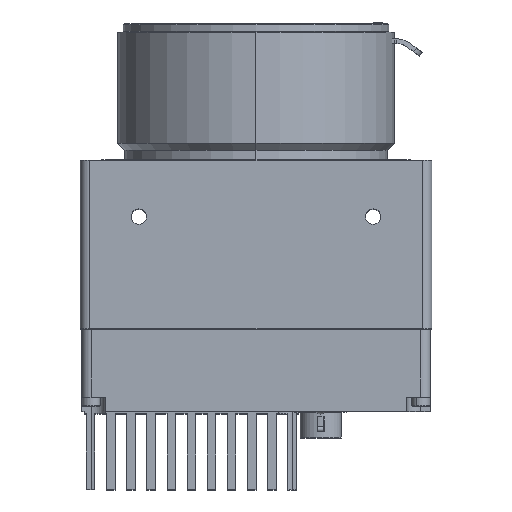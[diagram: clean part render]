
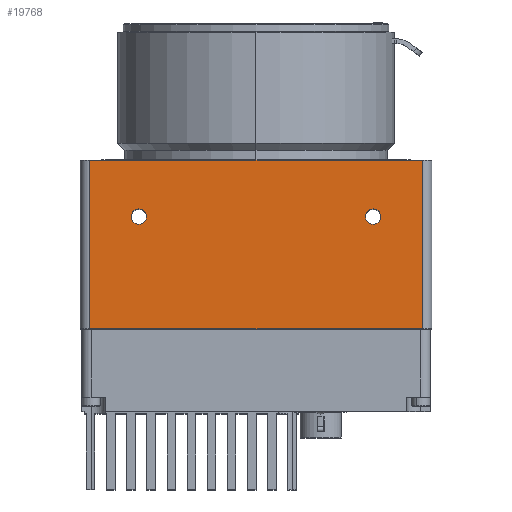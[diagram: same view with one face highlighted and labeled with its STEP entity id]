
A CAD part, top view. The second image highlights one B-rep face of the part: STEP entity #19768.
In plain terms, the highlighted planar face has unit normal (0, 0, 1).
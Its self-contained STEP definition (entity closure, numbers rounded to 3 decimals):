
#271 = ORIENTED_EDGE ( 'NONE', *, *, #11882, .T. ) ;
#319 = CARTESIAN_POINT ( 'NONE',  ( -35., 41.53, 37.5 ) ) ;
#364 = DIRECTION ( 'NONE',  ( 0., 1., 0. ) ) ;
#2183 = EDGE_CURVE ( 'NONE', #21064, #19067, #2430, .T. ) ;
#2253 = ORIENTED_EDGE ( 'NONE', *, *, #2183, .F. ) ;
#2430 = CIRCLE ( 'NONE', #13315, 1.65 ) ;
#2546 = VERTEX_POINT ( 'NONE', #18287 ) ;
#2752 = LINE ( 'NONE', #24168, #23137 ) ;
#2854 = ORIENTED_EDGE ( 'NONE', *, *, #7653, .F. ) ;
#2935 = ORIENTED_EDGE ( 'NONE', *, *, #18953, .F. ) ;
#3008 = DIRECTION ( 'NONE',  ( 0., 0., 1. ) ) ;
#3319 = CARTESIAN_POINT ( 'NONE',  ( -45.5, 17.75, 37.5 ) ) ;
#3511 = CARTESIAN_POINT ( 'NONE',  ( -35., 41.53, 37.5 ) ) ;
#3878 = EDGE_LOOP ( 'NONE', ( #2935, #2854 ) ) ;
#4126 = ORIENTED_EDGE ( 'NONE', *, *, #16859, .T. ) ;
#5133 = CARTESIAN_POINT ( 'NONE',  ( 15., 41.53, 37.5 ) ) ;
#5321 = EDGE_CURVE ( 'NONE', #11193, #5389, #12035, .T. ) ;
#5389 = VERTEX_POINT ( 'NONE', #11201 ) ;
#5647 = VERTEX_POINT ( 'NONE', #20376 ) ;
#5659 = CARTESIAN_POINT ( 'NONE',  ( 25.5, 17.6, 37.5 ) ) ;
#6130 = VERTEX_POINT ( 'NONE', #19195 ) ;
#6446 = DIRECTION ( 'NONE',  ( 0., 0., -1. ) ) ;
#6588 = DIRECTION ( 'NONE',  ( 1., 0., 0. ) ) ;
#6607 = VECTOR ( 'NONE', #6588, 1000. ) ;
#7653 = EDGE_CURVE ( 'NONE', #6130, #5647, #23055, .T. ) ;
#7746 = AXIS2_PLACEMENT_3D ( 'NONE', #10631, #3008, #18535 ) ;
#8447 = DIRECTION ( 'NONE',  ( 1., 0., 0. ) ) ;
#8574 = CARTESIAN_POINT ( 'NONE',  ( -68., 53.53, 37.5 ) ) ;
#9502 = DIRECTION ( 'NONE',  ( 0., 0., 1. ) ) ;
#10124 = AXIS2_PLACEMENT_3D ( 'NONE', #319, #10198, #24040 ) ;
#10198 = DIRECTION ( 'NONE',  ( 0., 0., 1. ) ) ;
#10570 = DIRECTION ( 'NONE',  ( -1., 0., 0. ) ) ;
#10631 = CARTESIAN_POINT ( 'NONE',  ( 15., 41.53, 37.5 ) ) ;
#11037 = DIRECTION ( 'NONE',  ( 0., 0., 1. ) ) ;
#11193 = VERTEX_POINT ( 'NONE', #17686 ) ;
#11201 = CARTESIAN_POINT ( 'NONE',  ( -45.5, 17.6, 37.5 ) ) ;
#11882 = EDGE_CURVE ( 'NONE', #5389, #16010, #17116, .T. ) ;
#11934 = CIRCLE ( 'NONE', #10124, 1.65 ) ;
#12035 = LINE ( 'NONE', #3319, #22217 ) ;
#12675 = ORIENTED_EDGE ( 'NONE', *, *, #5321, .T. ) ;
#12956 = CARTESIAN_POINT ( 'NONE',  ( -35., 39.88, 37.5 ) ) ;
#13315 = AXIS2_PLACEMENT_3D ( 'NONE', #3511, #9502, #19527 ) ;
#13560 = FACE_BOUND ( 'NONE', #3878, .T. ) ;
#13911 = EDGE_LOOP ( 'NONE', ( #18584, #2253 ) ) ;
#14925 = CARTESIAN_POINT ( 'NONE',  ( -35., 43.18, 37.5 ) ) ;
#15146 = EDGE_CURVE ( 'NONE', #16010, #2546, #2752, .T. ) ;
#16010 = VERTEX_POINT ( 'NONE', #5659 ) ;
#16304 = PLANE ( 'NONE',  #22437 ) ;
#16859 = EDGE_CURVE ( 'NONE', #2546, #11193, #23463, .T. ) ;
#17116 = LINE ( 'NONE', #23881, #6607 ) ;
#17534 = VECTOR ( 'NONE', #10570, 1000. ) ;
#17552 = ORIENTED_EDGE ( 'NONE', *, *, #15146, .T. ) ;
#17686 = CARTESIAN_POINT ( 'NONE',  ( -45.5, 53.53, 37.5 ) ) ;
#17901 = CIRCLE ( 'NONE', #7746, 1.65 ) ;
#18097 = CARTESIAN_POINT ( 'NONE',  ( -68., 17.75, 37.5 ) ) ;
#18287 = CARTESIAN_POINT ( 'NONE',  ( 25.5, 53.53, 37.5 ) ) ;
#18535 = DIRECTION ( 'NONE',  ( 0., 1., 0. ) ) ;
#18584 = ORIENTED_EDGE ( 'NONE', *, *, #21470, .F. ) ;
#18953 = EDGE_CURVE ( 'NONE', #5647, #6130, #17901, .T. ) ;
#19067 = VERTEX_POINT ( 'NONE', #14925 ) ;
#19195 = CARTESIAN_POINT ( 'NONE',  ( 15., 39.88, 37.5 ) ) ;
#19527 = DIRECTION ( 'NONE',  ( 0., 1., 0. ) ) ;
#19768 = ADVANCED_FACE ( 'NONE', ( #25597, #13560, #23146 ), #16304, .F. ) ;
#19879 = EDGE_LOOP ( 'NONE', ( #12675, #271, #17552, #4126 ) ) ;
#20376 = CARTESIAN_POINT ( 'NONE',  ( 15., 43.18, 37.5 ) ) ;
#20804 = AXIS2_PLACEMENT_3D ( 'NONE', #5133, #11037, #24889 ) ;
#21006 = DIRECTION ( 'NONE',  ( 0., -1., 0. ) ) ;
#21064 = VERTEX_POINT ( 'NONE', #12956 ) ;
#21470 = EDGE_CURVE ( 'NONE', #19067, #21064, #11934, .T. ) ;
#22217 = VECTOR ( 'NONE', #21006, 1000. ) ;
#22437 = AXIS2_PLACEMENT_3D ( 'NONE', #18097, #6446, #8447 ) ;
#23055 = CIRCLE ( 'NONE', #20804, 1.65 ) ;
#23137 = VECTOR ( 'NONE', #364, 1000. ) ;
#23146 = FACE_OUTER_BOUND ( 'NONE', #19879, .T. ) ;
#23463 = LINE ( 'NONE', #8574, #17534 ) ;
#23881 = CARTESIAN_POINT ( 'NONE',  ( 46., 17.6, 37.5 ) ) ;
#24040 = DIRECTION ( 'NONE',  ( 0., 1., 0. ) ) ;
#24168 = CARTESIAN_POINT ( 'NONE',  ( 25.5, 17.75, 37.5 ) ) ;
#24889 = DIRECTION ( 'NONE',  ( 0., 1., 0. ) ) ;
#25597 = FACE_BOUND ( 'NONE', #13911, .T. ) ;
